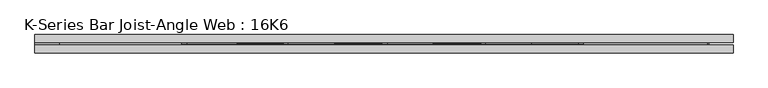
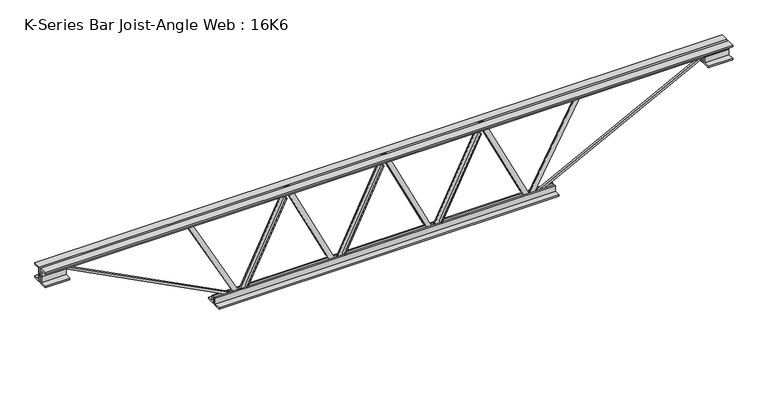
"""IFC4 building model written with IfcOpenShell, lengths in millimetres: beam geometry, K-Series Bar Joist-Angle Web : 16K6."""

from ifc_helpers import new_model, si_unit, frame, origin, place, context, project, spatial, polyline, outline, extrude, faceted_brep, source, transform, mapped, element, save


def k_series_bar_joist_angle_web_16k6_15da1dfb(model_context):
    return source(origin(), model_context, "Body", "SolidModel", [
        extrude(outline(polyline([(-4.75, 4.7625), (-4.75, 0.0), (-17.45, 0.0), (-17.45, 4.7625), (-4.75, 4.7625)])), frame((169.4583528, 0.0, -164.9), z_axis=(-0.43932866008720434, 0.0, 0.8983264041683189), x_axis=(0.0, -1.0, 0.0)), (0.0, 0.0, 1.0), 367.127136),
        extrude(outline(polyline([(-199.825, 198.8333333), (-180.775, 198.8333333), (-180.775, 198.4281597), (199.825, 12.2948264), (199.825, -6.35), (180.775, -6.35), (180.775, 0.4051736), (-199.825, 186.5385069), (-199.825, 198.8333333)])), frame((0.0, 0.0, 0.0), z_axis=(0.0, 1.0, 0.0), x_axis=(0.0, 0.0, 1.0)), (0.0, 0.0, 1.0), 4.75),
        faceted_brep([(-198.8333333, 0.0, -180.775), (-198.8333333, 0.0, -199.825), (-198.8333333, -4.75, -199.825), (-198.8333333, -4.75, -180.775), (-198.4281597, 0.0, -180.775), (-12.2948264, 0.0, 199.825), (6.35, 0.0, 199.825), (6.35, 0.0, 180.775), (-0.4051736, 0.0, 180.775), (-186.5385069, 0.0, -199.825), (-186.5385069, -4.75, -199.825), (-169.4583528, -4.75, -164.9), (-173.7366323, -4.75, -162.8076973), (-12.4471595, -4.75, 166.9923027), (-8.16888, -4.75, 164.9), (-0.4051736, -4.75, 180.775), (6.35, -4.75, 180.775), (6.35, -4.75, 199.825), (-12.2948264, -4.75, 199.825), (-198.4281597, -4.75, -180.775), (-8.16888, -17.4625, 164.9), (-169.4583528, -17.4625, -164.9), (-173.7366323, -17.4625, -162.8076973), (-12.4471595, -17.4625, 166.9923027)], [[[0, 1, 2, 3]], [[1, 0, 4, 5, 6, 7, 8, 9]], [[2, 1, 9, 10]], [[3, 2, 10, 11, 12, 13, 14, 15, 16, 17, 18, 19]], [[0, 3, 19, 4]], [[9, 8, 15, 14, 20, 21, 11, 10]], [[5, 4, 19, 18]], [[7, 6, 17, 16]], [[8, 7, 16, 15]], [[6, 5, 18, 17]], [[21, 22, 12, 11]], [[20, 14, 13, 23]], [[22, 21, 20, 23]], [[12, 22, 23, 13]]]),
        extrude(outline(polyline([(-4.75, 4.7625), (-4.75, 0.0), (-17.45, 0.0), (-17.45, 4.7625), (-4.75, 4.7625)])), frame((567.6250195, 0.0, -164.9), z_axis=(-0.43932866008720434, 0.0, 0.8983264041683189), x_axis=(0.0, -1.0, 0.0)), (0.0, 0.0, 1.0), 367.127136),
        extrude(outline(polyline([(-199.825, 597.0), (-180.775, 597.0), (-180.775, 596.5948264), (199.825, 410.4614931), (199.825, 391.8166667), (180.775, 391.8166667), (180.775, 398.5718403), (-199.825, 584.7051736), (-199.825, 597.0)])), frame((0.0, 0.0, 0.0), z_axis=(0.0, 1.0, 0.0), x_axis=(0.0, 0.0, 1.0)), (0.0, 0.0, 1.0), 4.75),
        faceted_brep([(199.3333333, 0.0, -180.775), (199.3333333, 0.0, -199.825), (199.3333333, -4.75, -199.825), (199.3333333, -4.75, -180.775), (199.7385069, 0.0, -180.775), (385.8718403, 0.0, 199.825), (404.5166667, 0.0, 199.825), (404.5166667, 0.0, 180.775), (397.7614931, 0.0, 180.775), (211.6281597, 0.0, -199.825), (211.6281597, -4.75, -199.825), (228.7083139, -4.75, -164.9), (224.4300344, -4.75, -162.8076973), (385.7195071, -4.75, 166.9923027), (389.9977866, -4.75, 164.9), (397.7614931, -4.75, 180.775), (404.5166667, -4.75, 180.775), (404.5166667, -4.75, 199.825), (385.8718403, -4.75, 199.825), (199.7385069, -4.75, -180.775), (389.9977866, -17.4625, 164.9), (228.7083139, -17.4625, -164.9), (224.4300344, -17.4625, -162.8076973), (385.7195071, -17.4625, 166.9923027)], [[[0, 1, 2, 3]], [[1, 0, 4, 5, 6, 7, 8, 9]], [[2, 1, 9, 10]], [[3, 2, 10, 11, 12, 13, 14, 15, 16, 17, 18, 19]], [[0, 3, 19, 4]], [[9, 8, 15, 14, 20, 21, 11, 10]], [[5, 4, 19, 18]], [[7, 6, 17, 16]], [[8, 7, 16, 15]], [[6, 5, 18, 17]], [[21, 22, 12, 11]], [[20, 14, 13, 23]], [[22, 21, 20, 23]], [[12, 22, 23, 13]]]),
        extrude(outline(polyline([(-4.75, 4.7625), (-4.75, 0.0), (-17.45, 0.0), (-17.45, 4.7625), (-4.75, 4.7625)])), frame((-228.7083139, 0.0, -164.9), z_axis=(-0.43932866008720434, 0.0, 0.8983264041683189), x_axis=(0.0, -1.0, 0.0)), (0.0, 0.0, 1.0), 367.127136),
        extrude(outline(polyline([(-199.825, -199.3333333), (-180.775, -199.3333333), (-180.775, -199.7385069), (199.825, -385.8718403), (199.825, -404.5166667), (180.775, -404.5166667), (180.775, -397.7614931), (-199.825, -211.6281597), (-199.825, -199.3333333)])), frame((0.0, 0.0, 0.0), z_axis=(0.0, 1.0, 0.0), x_axis=(0.0, 0.0, 1.0)), (0.0, 0.0, 1.0), 4.75),
        faceted_brep([(-597.0, 0.0, -180.775), (-597.0, 0.0, -199.825), (-597.0, -4.75, -199.825), (-597.0, -4.75, -180.775), (-596.5948264, 0.0, -180.775), (-410.4614931, 0.0, 199.825), (-391.8166667, 0.0, 199.825), (-391.8166667, 0.0, 180.775), (-398.5718403, 0.0, 180.775), (-584.7051736, 0.0, -199.825), (-584.7051736, -4.75, -199.825), (-567.6250195, -4.75, -164.9), (-571.903299, -4.75, -162.8076973), (-410.6138262, -4.75, 166.9923027), (-406.3355467, -4.75, 164.9), (-398.5718403, -4.75, 180.775), (-391.8166667, -4.75, 180.775), (-391.8166667, -4.75, 199.825), (-410.4614931, -4.75, 199.825), (-596.5948264, -4.75, -180.775), (-406.3355467, -17.4625, 164.9), (-567.6250195, -17.4625, -164.9), (-571.903299, -17.4625, -162.8076973), (-410.6138262, -17.4625, 166.9923027)], [[[0, 1, 2, 3]], [[1, 0, 4, 5, 6, 7, 8, 9]], [[2, 1, 9, 10]], [[3, 2, 10, 11, 12, 13, 14, 15, 16, 17, 18, 19]], [[0, 3, 19, 4]], [[9, 8, 15, 14, 20, 21, 11, 10]], [[5, 4, 19, 18]], [[7, 6, 17, 16]], [[8, 7, 16, 15]], [[6, 5, 18, 17]], [[21, 22, 12, 11]], [[20, 14, 13, 23]], [[22, 21, 20, 23]], [[12, 22, 23, 13]]]),
        extrude(outline(polyline([(4.75, 203.0), (36.75, 203.0), (36.75, 196.5), (11.25, 196.5), (11.25, 171.0), (4.75, 171.0), (4.75, 203.0)])), frame((-1409.0, 0.0, 0.0), z_axis=(1.0, 0.0, 0.0), x_axis=(0.0, 1.0, 0.0)), (0.0, 0.0, 1.0), 2818.0),
        extrude(outline(polyline([(-4.75, 203.0), (-4.75, 171.0), (-11.25, 171.0), (-11.25, 196.5), (-36.75, 196.5), (-36.75, 203.0), (-4.75, 203.0)])), frame((-1409.0, 0.0, 0.0), z_axis=(1.0, 0.0, 0.0), x_axis=(0.0, 1.0, 0.0)), (0.0, 0.0, 1.0), 2818.0),
        extrude(outline(polyline([(4.75, -203.0), (4.75, -171.0), (11.25, -171.0), (11.25, -196.5), (36.75, -196.5), (36.75, -203.0), (4.75, -203.0)])), frame((-697.0, 0.0, 0.0), z_axis=(1.0, 0.0, 0.0), x_axis=(0.0, 1.0, 0.0)), (0.0, 0.0, 1.0), 1394.0),
        extrude(outline(polyline([(-4.75, -203.0), (-36.75, -203.0), (-36.75, -196.5), (-11.25, -196.5), (-11.25, -171.0), (-4.75, -171.0), (-4.75, -203.0)])), frame((-697.0, 0.0, 0.0), z_axis=(1.0, 0.0, 0.0), x_axis=(0.0, 1.0, 0.0)), (0.0, 0.0, 1.0), 1394.0),
        extrude(outline(polyline([(4.75, 139.5), (4.75, 171.0), (11.25, 171.0), (11.25, 146.0), (36.75, 146.0), (36.75, 139.5), (4.75, 139.5)])), frame((1309.0, 0.0, 0.0), z_axis=(1.0, 0.0, 0.0), x_axis=(0.0, 1.0, 0.0)), (0.0, 0.0, 1.0), 100.0),
        extrude(outline(polyline([(-4.75, 139.5), (-36.75, 139.5), (-36.75, 146.0), (-11.25, 146.0), (-11.25, 171.0), (-4.75, 171.0), (-4.75, 139.5)])), frame((1309.0, 0.0, 0.0), z_axis=(1.0, 0.0, 0.0), x_axis=(0.0, 1.0, 0.0)), (0.0, 0.0, 1.0), 100.0),
        extrude(outline(polyline([(-4.75, 139.5), (-36.75, 139.5), (-36.75, 146.0), (-11.25, 146.0), (-11.25, 171.0), (-4.75, 171.0), (-4.75, 139.5)])), frame((-1409.0, 0.0, 0.0), z_axis=(1.0, 0.0, 0.0), x_axis=(0.0, 1.0, 0.0)), (0.0, 0.0, 1.0), 100.0),
        extrude(outline(polyline([(36.75, 139.5), (4.75, 139.5), (4.75, 171.0), (11.25, 171.0), (11.25, 146.0), (36.75, 146.0), (36.75, 139.5)])), frame((-1409.0, 0.0, 0.0), z_axis=(1.0, 0.0, 0.0), x_axis=(0.0, 1.0, 0.0)), (0.0, 0.0, 1.0), 100.0),
        extrude(outline(polyline([(193.9566712, -815.7904762), (174.9066712, -815.7904762), (174.9066712, -808.4776359), (-200.9560889, -604.9523201), (-191.8852041, -588.2005575), (193.9566712, -797.1294482), (193.9566712, -815.7904762)])), frame((0.0, 0.0, 0.0), z_axis=(0.0, 1.0, 0.0), x_axis=(0.0, 0.0, 1.0)), (0.0, 0.0, 1.0), 4.7625),
        extrude(outline(polyline([(-4.7625, -10.5646147), (-4.7625, 8.4853854), (0.0, 8.4853854), (0.0, -10.5646147), (-4.7625, -10.5646147)])), frame((597.0, 0.0, -196.65), z_axis=(0.47570884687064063, 0.0, 0.8796028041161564), x_axis=(0.0, -1.0, 0.0)), (0.0, 0.0, 1.0), 417.9727467),
        extrude(outline(polyline([(-200.8705467, -599.1793315), (-192.4294533, -594.8206685), (175.75, -1307.8460208), (175.75, -1409.0), (166.25, -1409.0), (166.25, -1310.1539792), (-200.8705467, -599.1793315)])), frame((0.0, -4.75, 0.0), z_axis=(0.0, 1.0, 0.0), x_axis=(0.0, 0.0, 1.0)), (0.0, 0.0, 1.0), 9.5),
        extrude(outline(polyline([(0.0, -9.5), (0.0, 0.0), (801.3179909, 0.0), (801.3179909, -9.5), (0.0, -9.5)])), frame((1311.1793315, -4.75, 166.7794533), z_axis=(-0.45880662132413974, 0.0, 0.8885361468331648), x_axis=(-0.8885361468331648, 0.0, -0.45880662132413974)), (0.0, 0.0, 1.0), 9.5),
    ])


if __name__ == "__main__":
    model = new_model("IFC4")
    model_context = context("Model", 3, world=origin())
    ifc_project = project(units=[si_unit("LENGTHUNIT", "METRE", prefix="MILLI")], contexts=[model_context])
    site = spatial("IfcSite", under=ifc_project)
    building = spatial("IfcBuilding", under=site)
    placement = place(None, origin())
    k_series_bar_joist_angle_web_16k6_shape = k_series_bar_joist_angle_web_16k6_15da1dfb(model_context)
    element("IfcBeam", 1, ObjectType="K-Series Bar Joist-Angle Web : 16K6", at=placement, inside=building, context=model_context, shape_type="MappedRepresentation", body=[
        mapped(k_series_bar_joist_angle_web_16k6_shape, transform((0.0, 0.0, 0.0), x_axis=(1.0, 0.0, 0.0), y_axis=(0.0, 1.0, 0.0), z_axis=(0.0, 0.0, 1.0))),
    ])
    save(model, "model.ifc")
